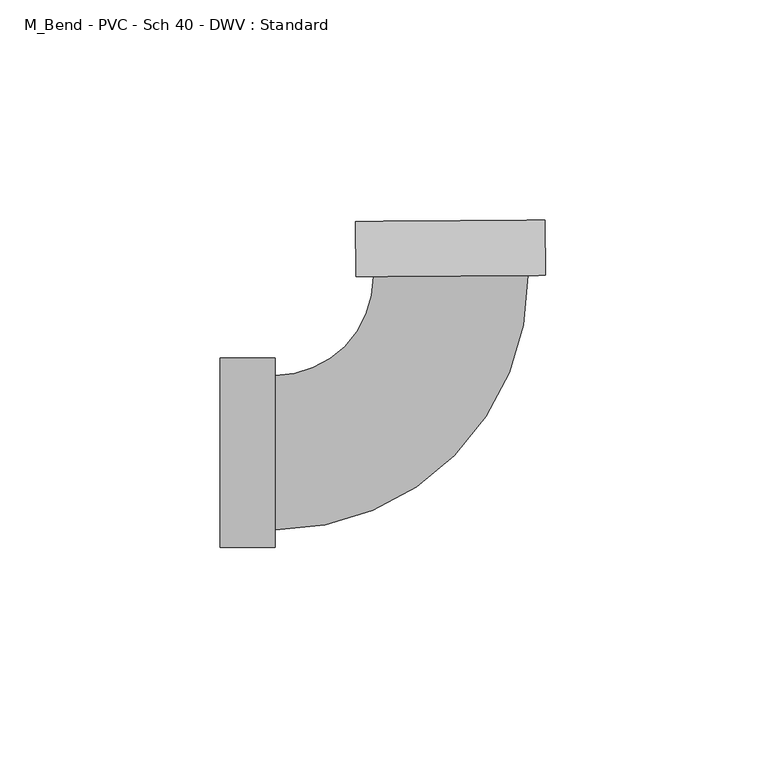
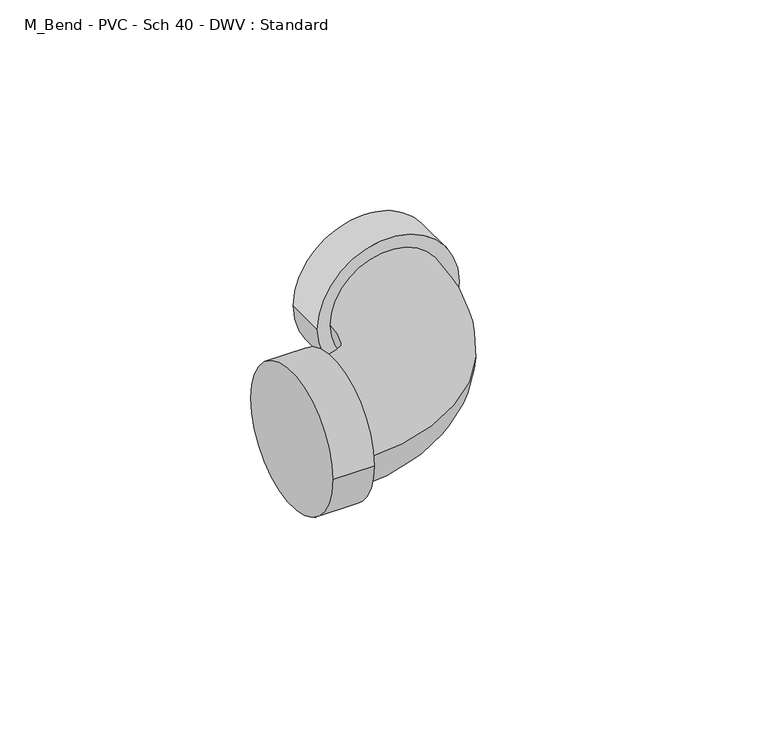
"""IFC4 building model written with IfcOpenShell, lengths in millimetres: pipe fitting geometry, M_Bend - PVC - Sch 40 - DWV : Standard."""

from ifc_helpers import new_model, si_unit, point, frame, origin, place, context, project, spatial, circle_curve, ellipse_curve, trimmed, source, transform, mapped, element, save
from ifc_brep_helpers import plane_surface, cylinder_surface, revolved_surface, advanced_brep


def m_bend_pvc_sch_40_dwv_standard_2c4d52f1(model_context):
    return source(origin(), model_context, "Body", "AdvancedBrep", [
        advanced_brep(
        [(-52.6140625, -21.4871094, 0.0), (-52.6140625, 21.4871094, 0.0), (-40.1140625, -21.4871094, 0.0), (-40.1140625, 21.4871094, 0.0), (-40.1140625, -17.5640625, 0.0), (-40.1140625, 17.5640625, 0.0), (-17.8429557, 39.9907894, 0.0), (17.2843177, 40.2353907, 0.0), (21.2072694, 40.2627073, 0.0), (-21.7659075, 39.9634727, 0.0), (21.1202304, 52.7624043, 0.0), (-21.8529465, 52.4631697, 0.0)],
        [
            (0, 1, circle_curve(frame((-52.6140625, 0.0, 0.0), z_axis=(-1.0, 0.0, 0.0), x_axis=(0.0, 1.0, 0.0)), 21.4871094)),
            (1, 0, circle_curve(frame((-52.6140625, 0.0, 0.0), z_axis=(-1.0, 0.0, 0.0), x_axis=(0.0, 1.0, 0.0)), 21.4871094)),
            (2, 3, circle_curve(frame((-40.1140625, 0.0, 0.0), z_axis=(1.0, 0.0, 0.0), x_axis=(0.0, 1.0, 0.0)), 21.4871094)),
            (3, 2, circle_curve(frame((-40.1140625, 0.0, 0.0), z_axis=(1.0, 0.0, 0.0), x_axis=(0.0, 1.0, 0.0)), 21.4871094)),
            (4, 5, circle_curve(frame((-40.1140625, 0.0, 0.0), z_axis=(-1.0, 0.0, 0.0), x_axis=(0.0, 1.0, 0.0)), 17.5640625)),
            (5, 4, circle_curve(frame((-40.1140625, 0.0, 0.0), z_axis=(-1.0, 0.0, 0.0), x_axis=(0.0, 1.0, 0.0)), 17.5640625)),
            (0, 2),
            (3, 1),
            (6, 5, circle_curve(frame((-40.1140625, 39.8357092, 0.0), z_axis=(0.0, 0.0, -1.0), x_axis=(0.0, -1.0, 0.0)), 22.2716467)),
            (4, 7, circle_curve(frame((-40.1140625, 39.8357092, 0.0), z_axis=(0.0, 0.0, 1.0), x_axis=(0.0, -1.0, 0.0)), 57.3997717)),
            (7, 6, circle_curve(frame((-0.279319, 40.11309, 0.0), z_axis=(0.006963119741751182, -0.999975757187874, 0.0), x_axis=(-0.999975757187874, -0.006963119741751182, 0.0)), 17.5640625)),
            (6, 7, circle_curve(frame((-0.279319, 40.11309, 0.0), z_axis=(0.006963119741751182, -0.999975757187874, 0.0), x_axis=(-0.999975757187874, -0.006963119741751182, 0.0)), 17.5640625)),
            (8, 9, circle_curve(frame((-0.279319, 40.11309, 0.0), z_axis=(0.00696311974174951, -0.999975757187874, 0.0), x_axis=(-0.999975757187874, -0.00696311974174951, 0.0)), 21.4871094)),
            (9, 8, circle_curve(frame((-0.279319, 40.11309, 0.0), z_axis=(0.00696311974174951, -0.999975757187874, 0.0), x_axis=(-0.999975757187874, -0.00696311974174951, 0.0)), 21.4871094)),
            (10, 11, circle_curve(frame((-0.366358, 52.612787, 0.0), z_axis=(-0.00696311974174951, 0.999975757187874, 0.0), x_axis=(-0.999975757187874, -0.00696311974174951, 0.0)), 21.4871094)),
            (11, 10, circle_curve(frame((-0.366358, 52.612787, 0.0), z_axis=(-0.00696311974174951, 0.999975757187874, 0.0), x_axis=(-0.999975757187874, -0.00696311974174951, 0.0)), 21.4871094)),
            (8, 10),
            (11, 9),
        ],
        [
            plane_surface(frame((-52.6140625, 0.0, 0.0), z_axis=(-1.0, 0.0, 0.0), x_axis=(0.0, 0.0, 1.0))),
            plane_surface(frame((-40.1140625, 0.0, 0.0), z_axis=(1.0, 0.0, 0.0), x_axis=(0.0, 0.0, 1.0))),
            cylinder_surface(frame((-52.6140625, 0.0, 0.0), z_axis=(-1.0, 0.0, 0.0), x_axis=(0.0, 1.0, 0.0)), 21.4871094),
            revolved_surface(trimmed(ellipse_curve(frame((-40.1140625, 0.0, 0.0), z_axis=(-1.0, 0.0, 0.0), x_axis=(0.0, 1.0, 0.0)), 17.5640625, 17.5640625), [point((-40.1140625, -17.5640625, 0.0))], [point((-40.1140625, 17.5640625, 0.0))], True, "CARTESIAN"), (-40.1140625, 39.8357092, 0.0), (0.0, 0.0, 1.0)),
            revolved_surface(trimmed(ellipse_curve(frame((-40.1140625, 0.0, 0.0), z_axis=(-1.0, 0.0, 0.0), x_axis=(0.0, 1.0, 0.0)), 17.5640625, 17.5640625), [point((-40.1140625, 17.5640625, 0.0))], [point((-40.1140625, -17.5640625, 0.0))], True, "CARTESIAN"), (-40.1140625, 39.8357092, 0.0), (0.0, 0.0, 1.0)),
            plane_surface(frame((-0.279319, 40.11309, 0.0), z_axis=(0.00696311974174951, -0.999975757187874, 0.0), x_axis=(0.0, 0.0, 1.0))),
            plane_surface(frame((-0.366358, 52.612787, 0.0), z_axis=(-0.00696311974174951, 0.999975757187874, 0.0), x_axis=(0.0, 0.0, 1.0))),
            cylinder_surface(frame((-0.279319, 40.11309, 0.0), z_axis=(0.00696311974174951, -0.999975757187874, 0.0), x_axis=(-0.999975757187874, -0.00696311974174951, 0.0)), 21.4871094),
        ],
        [
            (0, [[1, 2]]),
            (1, [[3, 4], [5, 6]]),
            (2, [[-1, 7, -4, 8]]),
            (2, [[-2, -8, -3, -7]]),
            (3, [[9, -5, 10, 11]]),
            (4, [[-9, 12, -10, -6]]),
            (5, [[13, 14], [-11, -12]]),
            (6, [[15, 16]]),
            (7, [[-13, 17, -16, 18]]),
            (7, [[-14, -18, -15, -17]]),
        ],
    ),
    ])


if __name__ == "__main__":
    model = new_model("IFC4")
    model_context = context("Model", 3, world=origin())
    ifc_project = project(units=[si_unit("LENGTHUNIT", "METRE", prefix="MILLI")], contexts=[model_context])
    site = spatial("IfcSite", under=ifc_project)
    building = spatial("IfcBuilding", under=site)
    placement = place(None, origin())
    m_bend_pvc_sch_40_dwv_standard_shape = m_bend_pvc_sch_40_dwv_standard_2c4d52f1(model_context)
    element("IfcPipeFitting", 1, ObjectType="M_Bend - PVC - Sch 40 - DWV : Standard", at=placement, inside=building, context=model_context, shape_type="MappedRepresentation", body=[
        mapped(m_bend_pvc_sch_40_dwv_standard_shape, transform((0.0, 0.0, 0.0), x_axis=(1.0, 0.0, 0.0), y_axis=(0.0, 1.0, 0.0), z_axis=(0.0, 0.0, 1.0))),
    ])
    save(model, "model.ifc")
